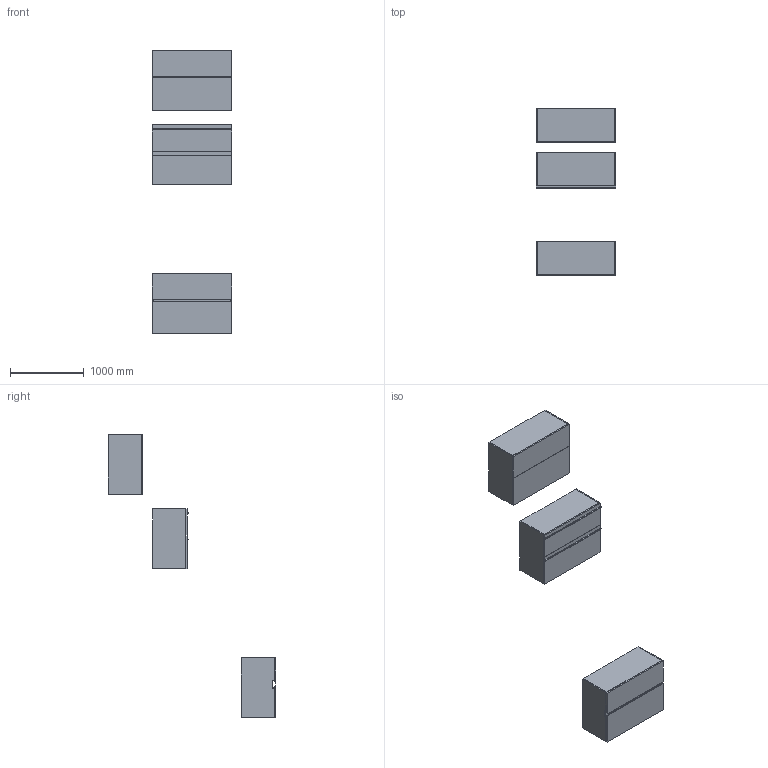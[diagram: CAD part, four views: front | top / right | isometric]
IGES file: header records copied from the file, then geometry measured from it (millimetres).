
Start section: Data from Parasolid IGES Translator 19.0.9, Copyright(c) 2006 Siemens PL M Software. All Rights Reserved.
Global section: file name: noorth-SI-H 81,2 D 47 W 108_8711.igs; native system: By Siemens PLM Incorporated; preprocessor: XPlus GENERIC/IGES 19.0.9; author: Noname; organization: Noname; date: 20200601.134131; units: metre
Bounding box: 1080 x 2270 x 3842 mm (x, y, z)
Volume: 136788360.7 mm3; surface area: 21365367.1 mm2
Topology: 24 solids, 24 shells, 248 faces, 544 edges, 324 vertices
Faces by surface type: plane 164, extrusion 36, bspline 32, cylinder 16
